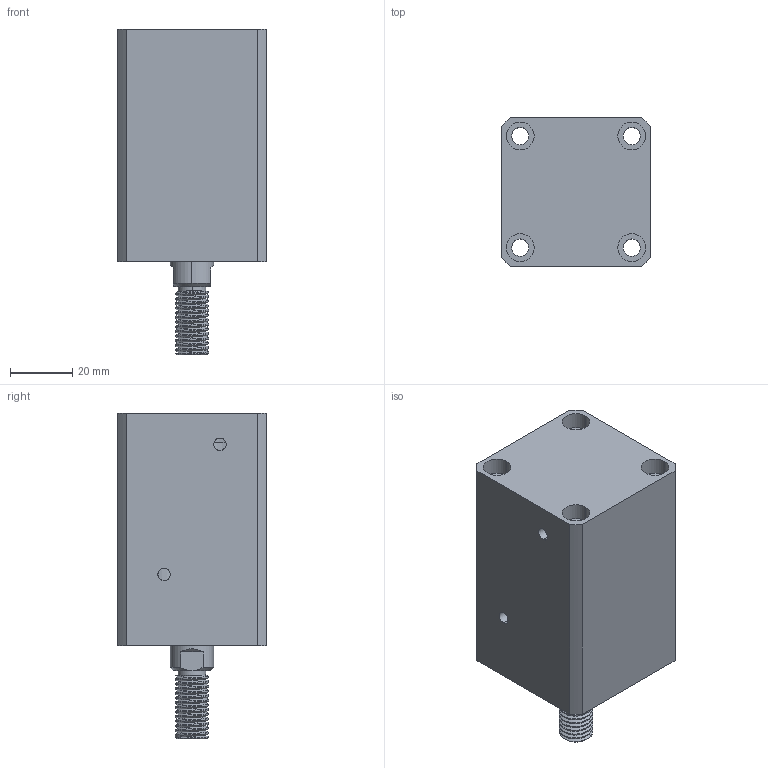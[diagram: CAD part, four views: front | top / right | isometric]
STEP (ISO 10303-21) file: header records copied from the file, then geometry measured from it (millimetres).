
FILE_DESCRIPTION (( 'STEP AP214' ), '1' );
FILE_NAME ('chtb-sdma25x30w_asm.STEP', '2018-05-22T07:34:07', ( 'Windows' ), ( 'Microsoft' ), 'SwSTEP 2.0', 'SolidWorks 2015', '' );
FILE_SCHEMA (( 'AUTOMOTIVE_DESIGN' ));
Length unit declared in the file: millimetre
Products named in the file (4): CHTB-SDMA25X30WHSG; CHTB-SDMA25X30NBT; CHTB-25QG; chtb-sdma25x30w_asm
Assembly tree (3 placements, depth 2):
  chtb-sdma25x30w_asm
    CHTB-25QG
    CHTB-SDMA25X30NBT
    CHTB-SDMA25X30WHSG
Bounding box: 48 x 48 x 105 mm (x, y, z)
Volume: 153600.5 mm3; surface area: 42020.5 mm2
Topology: 3 solids, 3 shells, 179 faces, 487 edges, 330 vertices
Faces by surface type: cylinder 119, plane 39, bspline 12, cone 9
Entity records: 10590 total; most frequent: CARTESIAN_POINT 6185, ORIENTED_EDGE 966, DIRECTION 783, EDGE_CURVE 483, VERTEX_POINT 330, AXIS2_PLACEMENT_3D 315, EDGE_LOOP 217, FACE_OUTER_BOUND 179
